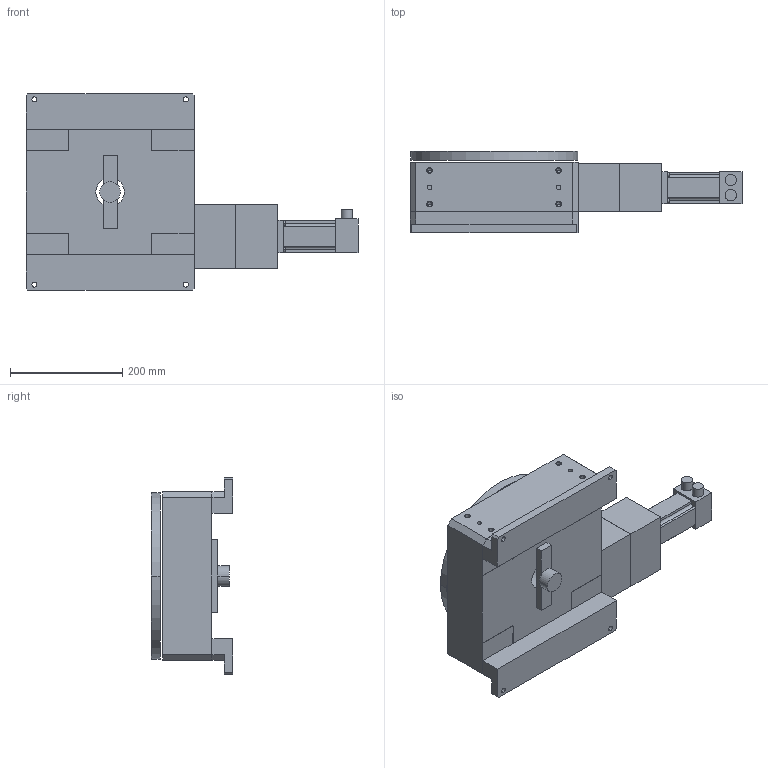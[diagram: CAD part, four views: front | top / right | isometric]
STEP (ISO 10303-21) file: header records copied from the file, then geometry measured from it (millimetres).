
FILE_DESCRIPTION((''),'2;1');
FILE_NAME('R300M9MP2E1_ASM','2009-07-02T',('FK20128'),(''),'PRO/ENGINEER BY PARAMETRIC TECHNOLOGY CORPORATION, 2006200','PRO/ENGINEER BY PARAMETRIC TECHNOLOGY CORPORATION, 2006200','');
FILE_SCHEMA(('CONFIG_CONTROL_DESIGN'));
Length unit declared in the file: millimetre
Products named in the file (8): R300M; R300M-M23; RXXXM-BE233; R300M-ENCODER-BRKT; R300M-ENCODER-STANDOFF; RXXXM-ENCODER; R300M-E1_ASM; R300M9MP2E1_ASM
Assembly tree (8 placements, depth 3):
  R300M9MP2E1_ASM
    R300M
    R300M-M23
    RXXXM-BE233
    R300M-E1_ASM
      R300M-ENCODER-BRKT
      R300M-ENCODER-STANDOFF  x2
      RXXXM-ENCODER
Bounding box: 591.9 x 145.13 x 350 mm (x, y, z)
Volume: 11588690.7 mm3; surface area: 750666.1 mm2
Topology: 8 solids, 30 shells, 337 faces, 820 edges, 544 vertices
Faces by surface type: cylinder 172, plane 143, cone 22
Entity records: 9355 total; most frequent: DIRECTION 1762, CARTESIAN_POINT 1561, ORIENTED_EDGE 1380, EDGE_CURVE 730, AXIS2_PLACEMENT_3D 697, VERTEX_POINT 496, EDGE_LOOP 406, VECTOR 368
